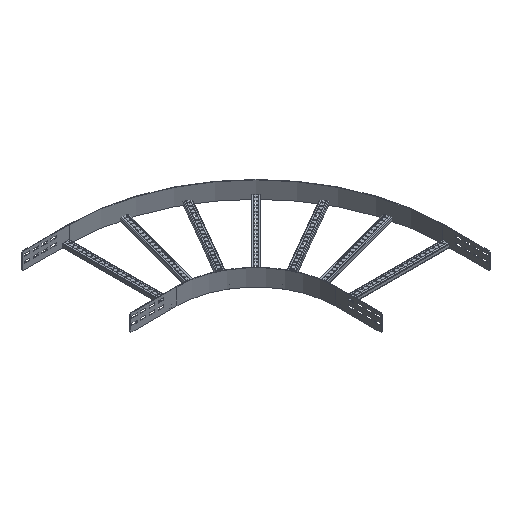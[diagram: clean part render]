
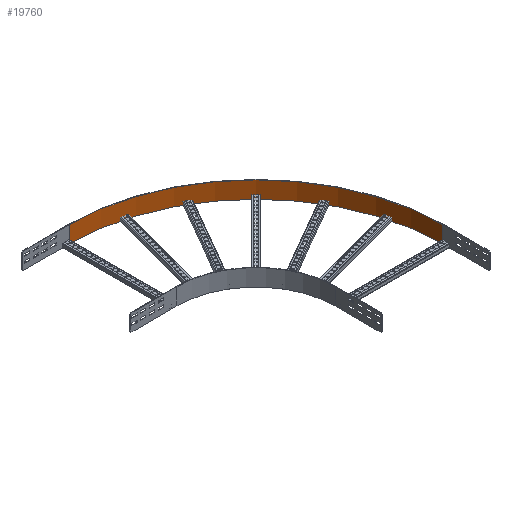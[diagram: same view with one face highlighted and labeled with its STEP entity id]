
A CAD part, isometric view. The second image highlights one B-rep face of the part: STEP entity #19760.
In plain terms, the highlighted cylindrical face has radius 1055 mm (diameter 2110 mm), a partial arc.
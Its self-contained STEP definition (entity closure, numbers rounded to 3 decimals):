
#120=CARTESIAN_POINT('',(0.,401.,-145.));
#130=VERTEX_POINT('',#120);
#160=CARTESIAN_POINT('',(0.,-654.,-145.));
#170=DIRECTION('',(0.,0.,1.));
#180=DIRECTION('',(1.,0.,0.));
#190=AXIS2_PLACEMENT_3D('',#160,#170,#180);
#200=CIRCLE('',#190,1055.);
#210=CARTESIAN_POINT('',(1055.,-654.,-145.));
#220=VERTEX_POINT('',#210);
#230=EDGE_CURVE('',#220,#130,#200,.T.);
#840=CARTESIAN_POINT('',(0.,401.,-50.));
#850=VERTEX_POINT('',#840);
#1350=CARTESIAN_POINT('',(1055.,-654.,-50.));
#1360=VERTEX_POINT('',#1350);
#1390=CARTESIAN_POINT('',(0.,-654.,-50.));
#1400=DIRECTION('',(0.,0.,1.));
#1410=DIRECTION('',(1.,0.,0.));
#1420=AXIS2_PLACEMENT_3D('',#1390,#1400,#1410);
#1430=CIRCLE('',#1420,1055.);
#1440=EDGE_CURVE('',#1360,#850,#1430,.T.);
#10550=CARTESIAN_POINT('',(0.,401.,0.));
#10560=DIRECTION('',(0.,0.,-1.));
#10570=VECTOR('',#10560,1.);
#10580=LINE('',#10550,#10570);
#10590=EDGE_CURVE('',#850,#130,#10580,.T.);
#13190=CARTESIAN_POINT('',(1055.,-654.,0.));
#13200=DIRECTION('',(0.,0.,1.));
#13210=VECTOR('',#13200,1.);
#13220=LINE('',#13190,#13210);
#13230=EDGE_CURVE('',#220,#1360,#13220,.T.);
#19650=CARTESIAN_POINT('',(0.,-654.,0.));
#19660=DIRECTION('',(0.,0.,1.));
#19670=DIRECTION('',(1.,0.,0.));
#19680=AXIS2_PLACEMENT_3D('',#19650,#19660,#19670);
#19690=CYLINDRICAL_SURFACE('',#19680,1055.);
#19700=ORIENTED_EDGE('',*,*,#13230,.T.);
#19710=ORIENTED_EDGE('',*,*,#230,.F.);
#19720=ORIENTED_EDGE('',*,*,#10590,.T.);
#19730=ORIENTED_EDGE('',*,*,#1440,.T.);
#19740=EDGE_LOOP('',(#19730,#19720,#19710,#19700));
#19750=FACE_OUTER_BOUND('',#19740,.T.);
#19760=ADVANCED_FACE('',(#19750),#19690,.F.);
